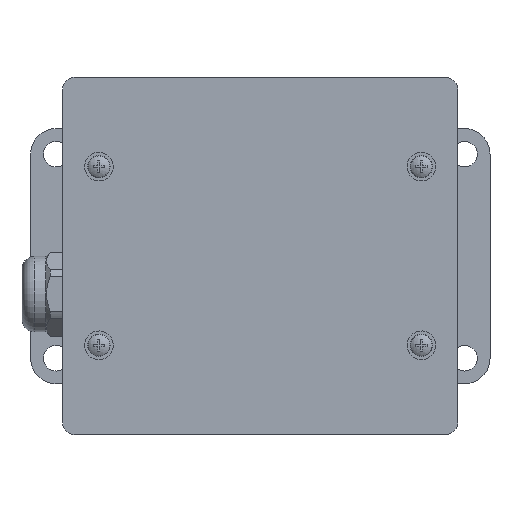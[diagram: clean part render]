
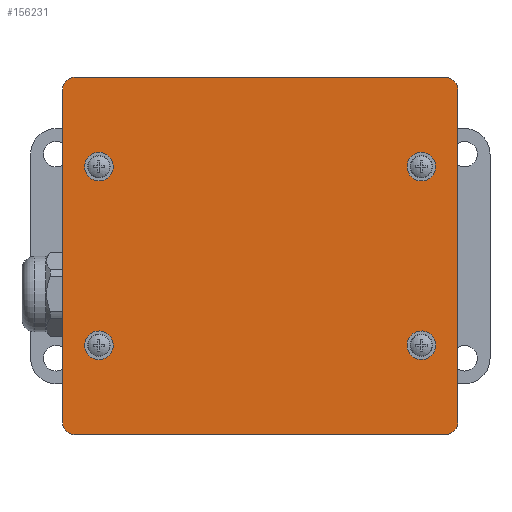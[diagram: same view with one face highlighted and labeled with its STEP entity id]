
A CAD part, top view. The second image highlights one B-rep face of the part: STEP entity #156231.
In plain terms, the highlighted planar face has unit normal (0, 0, 1) as drawn and (0, 1, 0) by its records, which use the part's own axes.
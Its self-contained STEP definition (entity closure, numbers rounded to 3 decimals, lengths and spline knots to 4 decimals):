
#6318=CIRCLE('',#166657,0.125);
#6327=CIRCLE('',#166669,0.125);
#6328=CIRCLE('',#166671,0.125);
#6329=CIRCLE('',#166674,0.125);
#6346=CIRCLE('',#166708,0.078);
#6347=CIRCLE('',#166710,0.078);
#6348=CIRCLE('',#166712,0.078);
#6349=CIRCLE('',#166714,0.078);
#8784=FACE_BOUND('',#25994,.T.);
#8785=FACE_BOUND('',#25995,.T.);
#8786=FACE_BOUND('',#25996,.T.);
#8787=FACE_BOUND('',#25997,.T.);
#16750=FACE_OUTER_BOUND('',#25993,.T.);
#25993=EDGE_LOOP('',(#135377,#135378,#135379,#135380,#135381,#135382,#135383,
#135384));
#25994=EDGE_LOOP('',(#135385));
#25995=EDGE_LOOP('',(#135386));
#25996=EDGE_LOOP('',(#135387));
#25997=EDGE_LOOP('',(#135388));
#41898=LINE('',#270523,#57840);
#41903=LINE('',#270537,#57845);
#41938=LINE('',#270650,#57880);
#41939=LINE('',#270652,#57881);
#57840=VECTOR('',#203050,0.3937);
#57845=VECTOR('',#203065,0.3937);
#57880=VECTOR('',#203190,0.3937);
#57881=VECTOR('',#203193,0.3937);
#71694=VERTEX_POINT('',#270483);
#71695=VERTEX_POINT('',#270484);
#71712=VERTEX_POINT('',#270522);
#71713=VERTEX_POINT('',#270526);
#71714=VERTEX_POINT('',#270530);
#71715=VERTEX_POINT('',#270531);
#71716=VERTEX_POINT('',#270536);
#71717=VERTEX_POINT('',#270540);
#71746=VERTEX_POINT('',#270632);
#71747=VERTEX_POINT('',#270636);
#71748=VERTEX_POINT('',#270640);
#71749=VERTEX_POINT('',#270644);
#92879=EDGE_CURVE('',#71694,#71695,#6318,.T.);
#92898=EDGE_CURVE('',#71695,#71712,#41898,.T.);
#92900=EDGE_CURVE('',#71712,#71713,#6327,.T.);
#92902=EDGE_CURVE('',#71714,#71715,#6328,.T.);
#92905=EDGE_CURVE('',#71715,#71716,#41903,.T.);
#92907=EDGE_CURVE('',#71716,#71717,#6329,.T.);
#92953=EDGE_CURVE('',#71746,#71746,#6346,.T.);
#92955=EDGE_CURVE('',#71747,#71747,#6347,.T.);
#92957=EDGE_CURVE('',#71748,#71748,#6348,.T.);
#92959=EDGE_CURVE('',#71749,#71749,#6349,.T.);
#92961=EDGE_CURVE('',#71713,#71714,#41938,.T.);
#92962=EDGE_CURVE('',#71717,#71694,#41939,.T.);
#135377=ORIENTED_EDGE('',*,*,#92879,.F.);
#135378=ORIENTED_EDGE('',*,*,#92962,.F.);
#135379=ORIENTED_EDGE('',*,*,#92907,.F.);
#135380=ORIENTED_EDGE('',*,*,#92905,.F.);
#135381=ORIENTED_EDGE('',*,*,#92902,.F.);
#135382=ORIENTED_EDGE('',*,*,#92961,.F.);
#135383=ORIENTED_EDGE('',*,*,#92900,.F.);
#135384=ORIENTED_EDGE('',*,*,#92898,.F.);
#135385=ORIENTED_EDGE('',*,*,#92953,.T.);
#135386=ORIENTED_EDGE('',*,*,#92955,.T.);
#135387=ORIENTED_EDGE('',*,*,#92957,.T.);
#135388=ORIENTED_EDGE('',*,*,#92959,.T.);
#141147=PLANE('',#166719);
#156231=ADVANCED_FACE('',(#16750,#8784,#8785,#8786,#8787),#141147,.T.);
#166657=AXIS2_PLACEMENT_3D('',#270485,#203018,#203019);
#166669=AXIS2_PLACEMENT_3D('',#270527,#203054,#203055);
#166671=AXIS2_PLACEMENT_3D('',#270532,#203059,#203060);
#166674=AXIS2_PLACEMENT_3D('',#270541,#203069,#203070);
#166708=AXIS2_PLACEMENT_3D('',#270633,#203166,#203167);
#166710=AXIS2_PLACEMENT_3D('',#270637,#203171,#203172);
#166712=AXIS2_PLACEMENT_3D('',#270641,#203176,#203177);
#166714=AXIS2_PLACEMENT_3D('',#270645,#203181,#203182);
#166719=AXIS2_PLACEMENT_3D('',#270653,#203194,#203195);
#203018=DIRECTION('center_axis',(0.,-1.,0.));
#203019=DIRECTION('ref_axis',(-0.707,0.,-0.707));
#203050=DIRECTION('',(1.,0.,0.));
#203054=DIRECTION('center_axis',(0.,-1.,0.));
#203055=DIRECTION('ref_axis',(0.707,0.,-0.707));
#203059=DIRECTION('center_axis',(0.,-1.,0.));
#203060=DIRECTION('ref_axis',(0.707,0.,0.707));
#203065=DIRECTION('',(-1.,0.,0.));
#203069=DIRECTION('center_axis',(0.,-1.,0.));
#203070=DIRECTION('ref_axis',(-0.707,0.,0.707));
#203166=DIRECTION('center_axis',(0.,-1.,0.));
#203167=DIRECTION('ref_axis',(-1.,0.,0.));
#203171=DIRECTION('center_axis',(0.,-1.,0.));
#203172=DIRECTION('ref_axis',(-1.,0.,0.));
#203176=DIRECTION('center_axis',(0.,-1.,0.));
#203177=DIRECTION('ref_axis',(-1.,0.,0.));
#203181=DIRECTION('center_axis',(0.,-1.,0.));
#203182=DIRECTION('ref_axis',(-1.,0.,0.));
#203190=DIRECTION('',(0.,0.,1.));
#203193=DIRECTION('',(0.,0.,-1.));
#203194=DIRECTION('center_axis',(0.,1.,0.));
#203195=DIRECTION('ref_axis',(0.,0.,1.));
#270483=CARTESIAN_POINT('',(-1.9375,0.25,-1.625));
#270484=CARTESIAN_POINT('',(-1.8125,0.25,-1.75));
#270485=CARTESIAN_POINT('Origin',(-1.8125,0.25,-1.625));
#270522=CARTESIAN_POINT('',(1.8125,0.25,-1.75));
#270523=CARTESIAN_POINT('',(-1.9375,0.25,-1.75));
#270526=CARTESIAN_POINT('',(1.9375,0.25,-1.625));
#270527=CARTESIAN_POINT('Origin',(1.8125,0.25,-1.625));
#270530=CARTESIAN_POINT('',(1.9375,0.25,1.625));
#270531=CARTESIAN_POINT('',(1.8125,0.25,1.75));
#270532=CARTESIAN_POINT('Origin',(1.8125,0.25,1.625));
#270536=CARTESIAN_POINT('',(-1.8125,0.25,1.75));
#270537=CARTESIAN_POINT('',(1.9375,0.25,1.75));
#270540=CARTESIAN_POINT('',(-1.9375,0.25,1.625));
#270541=CARTESIAN_POINT('Origin',(-1.8125,0.25,1.625));
#270632=CARTESIAN_POINT('',(1.6575,0.25,-0.875));
#270633=CARTESIAN_POINT('Origin',(1.5795,0.25,-0.875));
#270636=CARTESIAN_POINT('',(1.6575,0.25,0.875));
#270637=CARTESIAN_POINT('Origin',(1.5795,0.25,0.875));
#270640=CARTESIAN_POINT('',(-1.5015,0.25,0.875));
#270641=CARTESIAN_POINT('Origin',(-1.5795,0.25,0.875));
#270644=CARTESIAN_POINT('',(-1.5015,0.25,-0.875));
#270645=CARTESIAN_POINT('Origin',(-1.5795,0.25,-0.875));
#270650=CARTESIAN_POINT('',(1.9375,0.25,-1.75));
#270652=CARTESIAN_POINT('',(-1.9375,0.25,1.75));
#270653=CARTESIAN_POINT('Origin',(0.,0.25,0.));
